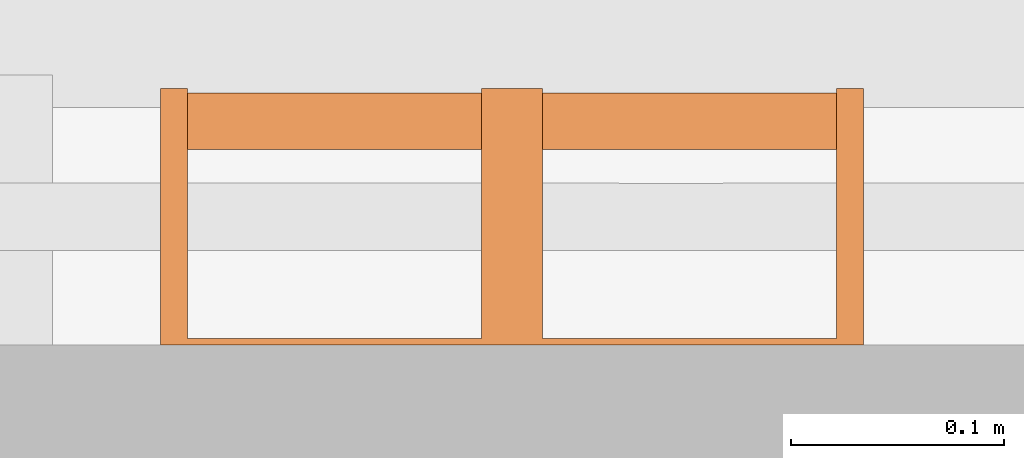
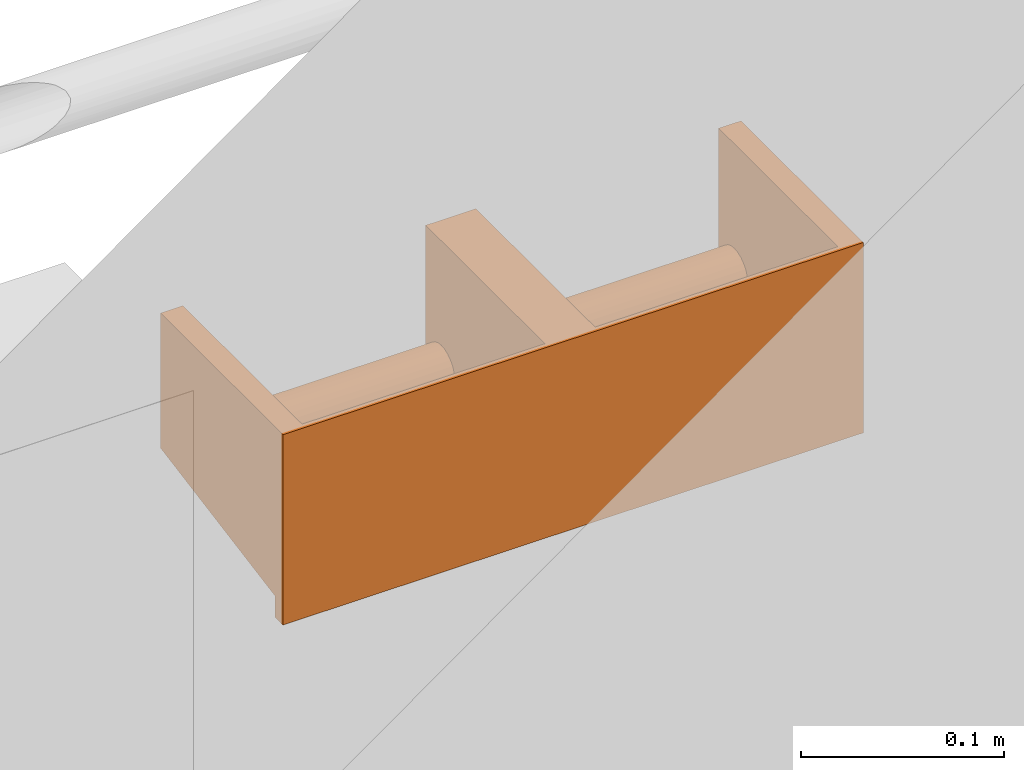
# One storey, part 70 of 142: 1 proxy.
"""IFC2X3 building model written with IfcOpenShell, lengths in feet."""

from ifc_helpers import new_model, entity, si_unit, converted_unit, derived_unit, direction, frame, frame_2d, origin, origin_2d_with_axis, place, context, subcontext, project, spatial, polyline, rectangle, circle, outline, extrude, source, transform, mapped, type_object, type_shapes, element, save


model = new_model("IFC2X3")

# Units and contexts
model_context = context("Model", 3, precision=0.0001, world=origin(), true_north=direction((6.12303176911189e-17, 1.0)))
body_context = subcontext(model_context, "Body", "Model", "MODEL_VIEW")
ifc_project = project(units=[converted_unit("LENGTHUNIT", "FOOT", entity("IfcRatioMeasure", 0.3048), si_unit("LENGTHUNIT", "METRE"), dimensions=[1, 0, 0, 0, 0, 0, 0]), converted_unit("AREAUNIT", "SQUARE FOOT", entity("IfcRatioMeasure", 0.09290304), si_unit("AREAUNIT", "SQUARE_METRE"), dimensions=[2, 0, 0, 0, 0, 0, 0]), converted_unit("VOLUMEUNIT", "CUBIC FOOT", entity("IfcRatioMeasure", 0.028316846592), si_unit("VOLUMEUNIT", "CUBIC_METRE"), dimensions=[3, 0, 0, 0, 0, 0, 0]), converted_unit("PLANEANGLEUNIT", "DEGREE", entity("IfcRatioMeasure", 0.0174532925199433), si_unit("PLANEANGLEUNIT", "RADIAN"), dimensions=[0, 0, 0, 0, 0, 0, 0]), si_unit("MASSUNIT", "GRAM", prefix="KILO"), derived_unit("MASSDENSITYUNIT", [(si_unit("MASSUNIT", "GRAM", prefix="KILO"), 1), (si_unit("LENGTHUNIT", "METRE"), -3)]), si_unit("TIMEUNIT", "SECOND"), si_unit("FREQUENCYUNIT", "HERTZ"), si_unit("THERMODYNAMICTEMPERATUREUNIT", "DEGREE_CELSIUS"), derived_unit("THERMALTRANSMITTANCEUNIT", [(si_unit("MASSUNIT", "GRAM", prefix="KILO"), 1), (si_unit("THERMODYNAMICTEMPERATUREUNIT", "KELVIN"), -1), (si_unit("TIMEUNIT", "SECOND"), -3)]), derived_unit("VOLUMETRICFLOWRATEUNIT", [(si_unit("LENGTHUNIT", "METRE"), 3), (si_unit("TIMEUNIT", "SECOND"), -1)]), si_unit("ELECTRICCURRENTUNIT", "AMPERE"), si_unit("ELECTRICVOLTAGEUNIT", "VOLT"), si_unit("POWERUNIT", "WATT"), si_unit("FORCEUNIT", "NEWTON"), si_unit("ILLUMINANCEUNIT", "LUX"), si_unit("LUMINOUSFLUXUNIT", "LUMEN"), si_unit("LUMINOUSINTENSITYUNIT", "CANDELA"), derived_unit("USERDEFINED", [(si_unit("MASSUNIT", "GRAM", prefix="KILO"), -1), (si_unit("LENGTHUNIT", "METRE"), -2), (si_unit("TIMEUNIT", "SECOND"), 3), (si_unit("LUMINOUSFLUXUNIT", "LUMEN"), 1)]), derived_unit("LINEARVELOCITYUNIT", [(si_unit("LENGTHUNIT", "METRE"), 1), (si_unit("TIMEUNIT", "SECOND"), -1)]), si_unit("PRESSUREUNIT", "PASCAL"), derived_unit("USERDEFINED", [(si_unit("LENGTHUNIT", "METRE"), -2), (si_unit("MASSUNIT", "GRAM", prefix="KILO"), 1), (si_unit("TIMEUNIT", "SECOND"), -2)])], contexts=[model_context])

# Site, building, storey, space
site_placement = place(None, origin())
site = spatial("IfcSite", under=ifc_project, at=site_placement, Name="Default", CompositionType="ELEMENT")
building_placement = place(site_placement, origin())
building = spatial("IfcBuilding", under=site, at=building_placement, Name="OUTPATIENT / PACT CLINIC (Ch. 265)", CompositionType="ELEMENT")
storey_placement = place(building_placement, origin())
storey = spatial("IfcBuildingStorey", under=building, at=storey_placement, Name="LEVEL 1", CompositionType="ELEMENT", Elevation=0.0)
space_placement = place(storey_placement, origin())
space = spatial("IfcSpace", under=storey, at=space_placement, Name="TNPG1", CompositionType="ELEMENT", InteriorOrExteriorSpace="INTERNAL")

# Proxy
building_element_proxy_type = type_object("IfcBuildingElementProxyType", Name="A5200 - Dispenser, Toilet Tissue, SS, 2-Roll, Surface Mntd", PredefinedType="NOTDEFINED")
shared_shape = source(origin(), body_context, "Body", "SweptSolid", [
    extrude(circle(Radius=0.0439072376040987, at=frame_2d((-9.86076131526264e-32, 1.11022302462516e-16), x_axis=(1.0, 0.0))), frame((0.0468750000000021, 0.344872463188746, 0.125668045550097), z_axis=(1.0, 0.0, 0.0), x_axis=(0.0, 0.0, 1.0)), (0.0, 0.0, 1.0), 0.453124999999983),
    extrude(circle(Radius=0.0061848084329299, at=origin_2d_with_axis()), frame((0.0468750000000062, 0.34487246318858, 0.125668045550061), z_axis=(1.0, 0.0, 0.0), x_axis=(0.0, 1.0, 0.0)), (0.0, 0.0, 1.0), 0.453124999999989),
    extrude(circle(Radius=0.0439072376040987, at=frame_2d((1.97215226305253e-31, -2.22044604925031e-16), x_axis=(1.0, 0.0))), frame((-0.500000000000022, 0.344872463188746, 0.125668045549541), z_axis=(1.0, 0.0, 0.0), x_axis=(0.0, 0.0, 1.0)), (0.0, 0.0, 1.0), 0.453124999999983),
    extrude(rectangle(XDim=0.541666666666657, YDim=0.0104166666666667, at=frame_2d((0.0, -4.33680868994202e-19), x_axis=(1.0, 0.0))), frame((0.270833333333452, 0.00520833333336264, 0.0), z_axis=(0.0, 0.0, 1.0), x_axis=(-1.0, 0.0, 0.0)), (0.0, 0.0, 1.0), 0.375668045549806),
    extrude(outline(polyline([(-0.225313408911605, -0.140625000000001), (0.150354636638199, -0.140625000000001), (0.150354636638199, -0.114583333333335), (0.108687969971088, -0.114583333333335), (0.0412295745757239, 0.255208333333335), (-0.225313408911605, 0.255208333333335), (-0.225313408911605, -0.140625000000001)])), frame((0.0, 0.140625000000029, 0.15035463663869), z_axis=(1.0, 0.0, 0.0), x_axis=(0.0, 0.0, -1.0)), (0.0, 0.0, 1.0), 0.0468750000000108),
    extrude(outline(polyline([(-0.225313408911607, -0.140625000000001), (0.150354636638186, -0.140625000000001), (0.150354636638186, -0.114583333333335), (0.108687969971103, -0.114583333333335), (0.0412295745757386, 0.255208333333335), (-0.225313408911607, 0.255208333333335), (-0.225313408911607, -0.140625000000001)])), frame((0.49999999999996, 0.140625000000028, 0.150354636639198), z_axis=(1.0, 0.0, 0.0), x_axis=(0.0, 0.0, -1.0)), (0.0, 0.0, 1.0), 0.0416666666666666),
    extrude(circle(Radius=0.0061848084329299, at=frame_2d((2.46519032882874e-32, -2.77555756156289e-17), x_axis=(1.0, 0.0))), frame((-0.500000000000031, 0.344872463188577, 0.125668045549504), z_axis=(1.0, 0.0, 0.0), x_axis=(0.0, 1.0, 0.0)), (0.0, 0.0, 1.0), 0.453124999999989),
    extrude(rectangle(XDim=0.541666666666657, YDim=0.0104166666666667, at=frame_2d((0.0, 4.33680868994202e-19), x_axis=(1.0, 0.0))), frame((-0.27083333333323, 0.00520833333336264, 0.0), z_axis=(0.0, 0.0, 1.0), x_axis=(-1.0, 0.0, 0.0)), (0.0, 0.0, 1.0), 0.375668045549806),
    extrude(outline(polyline([(-0.225313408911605, -0.140625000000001), (0.150354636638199, -0.140625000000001), (0.150354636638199, -0.114583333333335), (0.108687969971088, -0.114583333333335), (0.041229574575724, 0.255208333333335), (-0.225313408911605, 0.255208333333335), (-0.225313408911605, -0.140625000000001)])), frame((-0.0468750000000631, 0.140625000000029, 0.150354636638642), z_axis=(1.0, 0.0, 0.0), x_axis=(0.0, 0.0, -1.0)), (0.0, 0.0, 1.0), 0.0468750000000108),
    extrude(outline(polyline([(-0.225313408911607, -0.140625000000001), (0.150354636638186, -0.140625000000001), (0.150354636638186, -0.114583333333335), (0.108687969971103, -0.114583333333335), (0.0412295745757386, 0.255208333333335), (-0.225313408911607, 0.255208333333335), (-0.225313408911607, -0.140625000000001)])), frame((-0.541666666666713, 0.140625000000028, 0.150354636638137), z_axis=(1.0, 0.0, 0.0), x_axis=(0.0, 0.0, -1.0)), (0.0, 0.0, 1.0), 0.0416666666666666),
])
type_shapes(building_element_proxy_type, [shared_shape])
proxy_placement = place(space_placement, frame((395.13011654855, -952.649655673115, 1.97884114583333)))
element("IfcBuildingElementProxy", 1, at=proxy_placement, inside=space, type_object=building_element_proxy_type, Name="A5200 - Dispenser, Toilet Tissue, SS, 2-Roll, Surface Mntd1:A5200 - Dispenser, Toilet Tissue, SS, 2-Roll, Surface Mntd", ObjectType="A5200 - Dispenser, Toilet Tissue, SS, 2-Roll, Surface Mntd", context=body_context, shape_type="MappedRepresentation", body=[
    mapped(shared_shape, transform((0.0, 0.0, 0.0), scale=1.0)),
])

save(model, "model.ifc")
